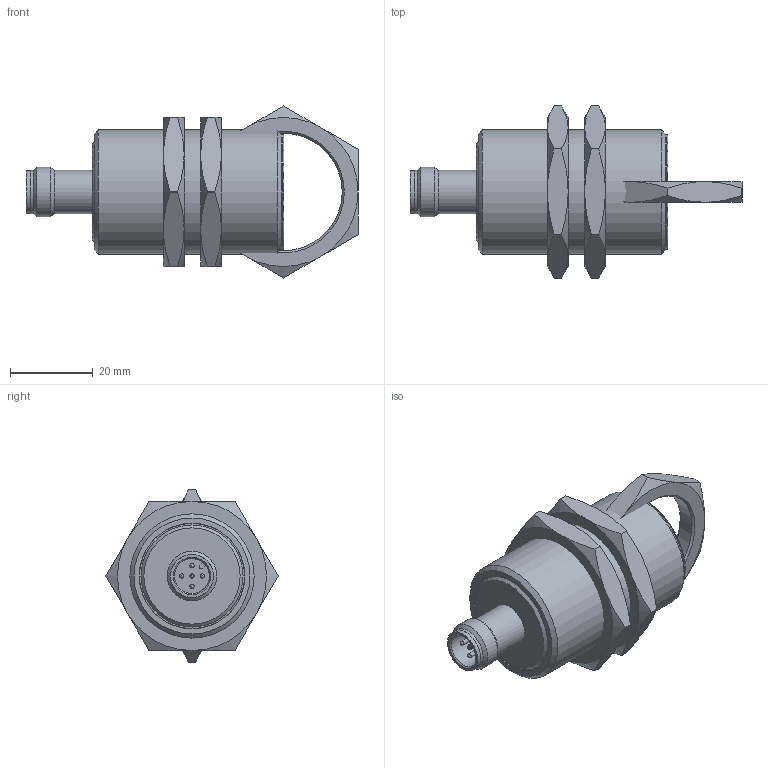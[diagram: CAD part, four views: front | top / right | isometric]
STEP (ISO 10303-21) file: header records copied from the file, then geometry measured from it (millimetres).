
FILE_DESCRIPTION( ( 'Unknown' ), '1' );
FILE_NAME( '//baumerholding.org/frauenfeld/bereich/BECH/Services/me_CAD/Solid Edge/Models/Dokumentationen/Induktiv/IxRx 30/Vereinfachte Modelle/Neutralformate/IWRM 30Z8704_S14C.stp', 'Unknown', ( 'Unknown' ), ( 'Unknown' ), 'PSStep 10.0', 'Unknown', ' ' );
FILE_SCHEMA( ( 'AUTOMOTIVE_DESIGN { 1 0 10303 214 1 1 1 1 }' ) );
Length unit declared in the file: millimetre
Products named in the file (3): Assem1; IWRM 30Z8704_S14C_oA; 101477
Bounding box: 80.2 x 41.56 x 41.56 mm (x, y, z)
Volume: 73846.9 mm3; surface area: 18798.8 mm2
Topology: 5 solids, 5 shells, 159 faces, 359 edges, 220 vertices
Faces by surface type: cone 56, cylinder 47, plane 44, sphere 10, torus 2
Full cylindrical faces by diameter (mm): 1 x10, 8.45 x2, 10.4 x2, 10.45 x4, 12 x2, 28 x2, 28.376 x3, 30 x2
Entity records: 2028 total; most frequent: CARTESIAN_POINT 421, DIRECTION 282, ORIENTED_EDGE 212, AXIS2_PLACEMENT_3D 131, EDGE_CURVE 106, EDGE_LOOP 100, FACE_OUTER_BOUND 79, VERTEX_POINT 78
